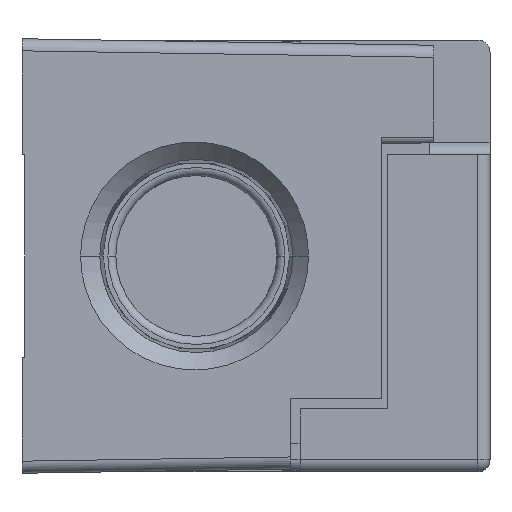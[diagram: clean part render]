
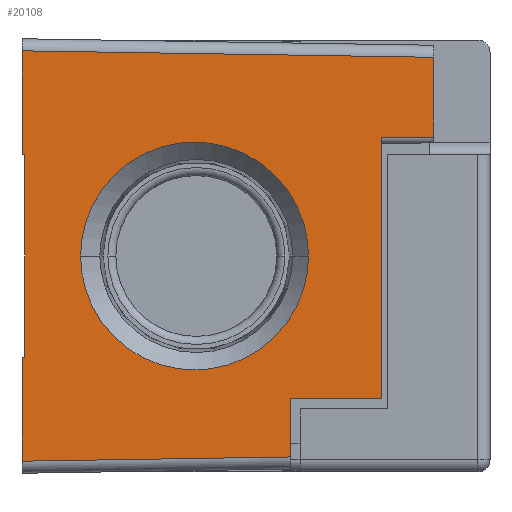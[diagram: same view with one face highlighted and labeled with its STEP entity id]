
A CAD part, front view. The second image highlights one B-rep face of the part: STEP entity #20108.
In plain terms, the highlighted planar face has unit normal (0.016, -1, 0).
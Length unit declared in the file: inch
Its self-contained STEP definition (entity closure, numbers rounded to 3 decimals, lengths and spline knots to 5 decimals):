
#15681=CARTESIAN_POINT('',(0.161,-3.18829,-0.7493));
#15691=DIRECTION('',(0.,0.,1.));
#15692=VECTOR('',#15691,0.2193);
#15693=CARTESIAN_POINT('',(0.161,-3.18829,-0.7493));
#15694=LINE('',#15693,#15692);
#16011=DIRECTION('',(0.,0.,1.));
#16012=VECTOR('',#16011,0.973);
#16013=CARTESIAN_POINT('',(0.501,-3.18295,-0.53));
#16014=LINE('',#16013,#16012);
#16019=DIRECTION('',(1.,0.016,0.));
#16020=VECTOR('',#16019,0.34004);
#16021=CARTESIAN_POINT('',(0.161,-3.18829,-0.53));
#16022=LINE('',#16021,#16020);
#16023=DIRECTION('',(-1.,-0.016,0.016));
#16024=VECTOR('',#16023,1.53538);
#16025=CARTESIAN_POINT('',(0.696,-3.17989,0.74089));
#16026=LINE('',#16025,#16024);
#16027=DIRECTION('',(1.,0.016,0.016));
#16028=VECTOR('',#16027,1.00025);
#16029=CARTESIAN_POINT('',(-0.839,-3.204,-0.76501));
#16030=LINE('',#16029,#16028);
#16031=DIRECTION('',(1.,0.016,0.));
#16032=VECTOR('',#16031,0.01);
#16033=CARTESIAN_POINT('',(-0.839,-3.204,-0.378));
#16034=LINE('',#16033,#16032);
#16035=DIRECTION('',(0.,0.,1.));
#16036=VECTOR('',#16035,0.756);
#16037=CARTESIAN_POINT('',(-0.829,-3.20384,-0.378));
#16038=LINE('',#16037,#16036);
#16039=DIRECTION('',(1.,0.016,0.));
#16040=VECTOR('',#16039,0.01);
#16041=CARTESIAN_POINT('',(-0.839,-3.204,0.378));
#16042=LINE('',#16041,#16040);
#16043=CARTESIAN_POINT('',(0.22922,-3.18722,0.));
#16044=CARTESIAN_POINT('',(0.22922,-3.18722,
-0.02503));
#16045=CARTESIAN_POINT('',(0.22477,-3.18729,
-0.07698));
#16046=CARTESIAN_POINT('',(0.20223,-3.18764,
-0.15686));
#16047=CARTESIAN_POINT('',(0.16265,-3.18826,
-0.23386));
#16048=CARTESIAN_POINT('',(0.10694,-3.18914,
-0.30258));
#16049=CARTESIAN_POINT('',(0.03821,-3.19022,
-0.35828));
#16050=CARTESIAN_POINT('',(-0.02595,-3.19123,
-0.39125));
#16051=CARTESIAN_POINT('',(-0.07874,-3.19206,
-0.40913));
#16052=CARTESIAN_POINT('',(-0.11844,-3.19268,
-0.41841));
#16053=CARTESIAN_POINT('',(-0.15111,-3.19319,
-0.42285));
#16054=CARTESIAN_POINT('',(-0.1768,-3.1936,
-0.42456));
#16055=CARTESIAN_POINT('',(-0.19567,-3.19389,
-0.42498));
#16056=CARTESIAN_POINT('',(-0.21455,-3.19419,
-0.42456));
#16057=CARTESIAN_POINT('',(-0.24024,-3.19459,
-0.42285));
#16058=CARTESIAN_POINT('',(-0.27291,-3.19511,
-0.41841));
#16059=CARTESIAN_POINT('',(-0.31261,-3.19573,
-0.40913));
#16060=CARTESIAN_POINT('',(-0.36539,-3.19656,
-0.39125));
#16061=CARTESIAN_POINT('',(-0.42956,-3.19757,
-0.35828));
#16062=CARTESIAN_POINT('',(-0.49829,-3.19865,
-0.30258));
#16063=CARTESIAN_POINT('',(-0.554,-3.19952,
-0.23386));
#16064=CARTESIAN_POINT('',(-0.59357,-3.20014,
-0.15686));
#16065=CARTESIAN_POINT('',(-0.61612,-3.2005,
-0.07698));
#16066=CARTESIAN_POINT('',(-0.62057,-3.20057,
-0.02503));
#16067=CARTESIAN_POINT('',(-0.62057,-3.20057,0.));
#16069=CARTESIAN_POINT('',(-0.62057,-3.20057,0.));
#16070=CARTESIAN_POINT('',(-0.62057,-3.20057,
0.02503));
#16071=CARTESIAN_POINT('',(-0.61612,-3.2005,
0.07698));
#16072=CARTESIAN_POINT('',(-0.59357,-3.20014,
0.15686));
#16073=CARTESIAN_POINT('',(-0.554,-3.19952,
0.23386));
#16074=CARTESIAN_POINT('',(-0.49829,-3.19865,
0.30258));
#16075=CARTESIAN_POINT('',(-0.42956,-3.19757,
0.35828));
#16076=CARTESIAN_POINT('',(-0.36539,-3.19656,
0.39125));
#16077=CARTESIAN_POINT('',(-0.31261,-3.19573,
0.40913));
#16078=CARTESIAN_POINT('',(-0.27291,-3.19511,
0.41841));
#16079=CARTESIAN_POINT('',(-0.24024,-3.19459,
0.42285));
#16080=CARTESIAN_POINT('',(-0.21455,-3.19419,
0.42456));
#16081=CARTESIAN_POINT('',(-0.19567,-3.19389,
0.42498));
#16082=CARTESIAN_POINT('',(-0.1768,-3.1936,
0.42456));
#16083=CARTESIAN_POINT('',(-0.15111,-3.19319,
0.42285));
#16084=CARTESIAN_POINT('',(-0.11844,-3.19268,
0.41841));
#16085=CARTESIAN_POINT('',(-0.07874,-3.19206,
0.40913));
#16086=CARTESIAN_POINT('',(-0.02595,-3.19123,
0.39125));
#16087=CARTESIAN_POINT('',(0.03821,-3.19022,
0.35828));
#16088=CARTESIAN_POINT('',(0.10694,-3.18914,
0.30258));
#16089=CARTESIAN_POINT('',(0.16265,-3.18826,
0.23386));
#16090=CARTESIAN_POINT('',(0.20223,-3.18764,
0.15686));
#16091=CARTESIAN_POINT('',(0.22477,-3.18729,
0.07698));
#16092=CARTESIAN_POINT('',(0.22922,-3.18722,
0.02503));
#16093=CARTESIAN_POINT('',(0.22922,-3.18722,0.));
#16095=CARTESIAN_POINT('',(-0.839,-3.204,0.76501));
#16105=DIRECTION('',(0.,0.,1.));
#16106=VECTOR('',#16105,0.38701);
#16107=CARTESIAN_POINT('',(-0.839,-3.204,0.378));
#16108=LINE('',#16107,#16106);
#16621=CARTESIAN_POINT('',(0.696,-3.17989,0.74089));
#16650=DIRECTION('',(0.,0.,-1.));
#16651=VECTOR('',#16650,0.29789);
#16652=CARTESIAN_POINT('',(0.696,-3.17989,0.74089));
#16653=LINE('',#16652,#16651);
#16713=DIRECTION('',(1.,0.016,0.));
#16714=VECTOR('',#16713,0.19502);
#16715=CARTESIAN_POINT('',(0.501,-3.18295,0.443));
#16716=LINE('',#16715,#16714);
#16849=CARTESIAN_POINT('',(-0.839,-3.204,-0.76501));
#16868=DIRECTION('',(0.,0.,1.));
#16869=VECTOR('',#16868,0.38701);
#16870=CARTESIAN_POINT('',(-0.839,-3.204,-0.76501));
#16871=LINE('',#16870,#16869);
#18049=CARTESIAN_POINT('',(0.22922,-3.18722,0.));
#18050=VERTEX_POINT('',#18049);
#18051=CARTESIAN_POINT('',(-0.62057,-3.20057,0.));
#18052=VERTEX_POINT('',#18051);
#18054=CARTESIAN_POINT('',(0.501,-3.18295,0.443));
#18056=VERTEX_POINT('',#18054);
#18063=CARTESIAN_POINT('',(0.696,-3.17989,0.443));
#18064=VERTEX_POINT('',#18063);
#18065=CARTESIAN_POINT('',(0.501,-3.18295,-0.53));
#18066=VERTEX_POINT('',#18065);
#18073=CARTESIAN_POINT('',(0.161,-3.18829,-0.53));
#18074=VERTEX_POINT('',#18073);
#18077=VERTEX_POINT('',#16095);
#18081=VERTEX_POINT('',#16621);
#18082=VERTEX_POINT('',#15681);
#18086=VERTEX_POINT('',#16849);
#18139=CARTESIAN_POINT('',(-0.839,-3.204,-0.378));
#18140=VERTEX_POINT('',#18139);
#18141=CARTESIAN_POINT('',(-0.839,-3.204,0.378));
#18143=VERTEX_POINT('',#18141);
#18161=CARTESIAN_POINT('',(-0.829,-3.20384,-0.378));
#18162=CARTESIAN_POINT('',(-0.829,-3.20384,0.378));
#18163=VERTEX_POINT('',#18161);
#18164=VERTEX_POINT('',#18162);
#20074=CARTESIAN_POINT('',(-0.839,-3.204,-1.85443));
#20075=DIRECTION('',(0.016,-1.,0.));
#20076=DIRECTION('',(0.,0.,1.));
#20077=AXIS2_PLACEMENT_3D('',#20074,#20075,#20076);
#20078=PLANE('',#20077);
#20080=ORIENTED_EDGE('',*,*,#20079,.F.);
#20082=ORIENTED_EDGE('',*,*,#20081,.T.);
#20084=ORIENTED_EDGE('',*,*,#20083,.F.);
#20085=ORIENTED_EDGE('',*,*,#20053,.F.);
#20086=ORIENTED_EDGE('',*,*,#20068,.F.);
#20087=ORIENTED_EDGE('',*,*,#19589,.F.);
#20089=ORIENTED_EDGE('',*,*,#20088,.F.);
#20091=ORIENTED_EDGE('',*,*,#20090,.T.);
#20093=ORIENTED_EDGE('',*,*,#20092,.T.);
#20095=ORIENTED_EDGE('',*,*,#20094,.T.);
#20097=ORIENTED_EDGE('',*,*,#20096,.F.);
#20099=ORIENTED_EDGE('',*,*,#20098,.T.);
#20100=EDGE_LOOP('',(#20080,#20082,#20084,#20085,#20086,#20087,#20089,#20091,
#20093,#20095,#20097,#20099));
#20101=FACE_OUTER_BOUND('',#20100,.F.);
#20103=ORIENTED_EDGE('',*,*,#20102,.F.);
#20105=ORIENTED_EDGE('',*,*,#20104,.F.);
#20106=EDGE_LOOP('',(#20103,#20105));
#20107=FACE_BOUND('',#20106,.F.);
#20108=ADVANCED_FACE('',(#20101,#20107),#20078,.T.);
#16068=B_SPLINE_CURVE_WITH_KNOTS('',3,(#16043,#16044,#16045,#16046,#16047,
#16048,#16049,#16050,#16051,#16052,#16053,#16054,#16055,#16056,#16057,#16058,
#16059,#16060,#16061,#16062,#16063,#16064,#16065,#16066,#16067),.UNSPECIFIED.,
.F.,.F.,(4,1,1,1,1,1,1,1,1,1,1,1,1,1,1,1,1,1,1,1,1,1,4),(0.,0.0625,0.125,
0.1875,0.25,0.3125,0.375,0.40625,0.4375,0.46875,0.48438,0.5,
0.51563,0.53125,0.5625,0.59375,0.625,0.6875,0.75,0.8125,
0.875,0.9375,1.),.UNSPECIFIED.);
#16094=B_SPLINE_CURVE_WITH_KNOTS('',3,(#16069,#16070,#16071,#16072,#16073,
#16074,#16075,#16076,#16077,#16078,#16079,#16080,#16081,#16082,#16083,#16084,
#16085,#16086,#16087,#16088,#16089,#16090,#16091,#16092,#16093),.UNSPECIFIED.,
.F.,.F.,(4,1,1,1,1,1,1,1,1,1,1,1,1,1,1,1,1,1,1,1,1,1,4),(0.,0.0625,0.125,
0.1875,0.25,0.3125,0.375,0.40625,0.4375,0.46875,0.48438,0.5,
0.51563,0.53125,0.5625,0.59375,0.625,0.6875,0.75,0.8125,
0.875,0.9375,1.),.UNSPECIFIED.);
#19589=EDGE_CURVE('',#18082,#18074,#15694,.T.);
#20053=EDGE_CURVE('',#18066,#18056,#16014,.T.);
#20068=EDGE_CURVE('',#18074,#18066,#16022,.T.);
#20079=EDGE_CURVE('',#18081,#18077,#16026,.T.);
#20081=EDGE_CURVE('',#18081,#18064,#16653,.T.);
#20083=EDGE_CURVE('',#18056,#18064,#16716,.T.);
#20088=EDGE_CURVE('',#18086,#18082,#16030,.T.);
#20090=EDGE_CURVE('',#18086,#18140,#16871,.T.);
#20092=EDGE_CURVE('',#18140,#18163,#16034,.T.);
#20094=EDGE_CURVE('',#18163,#18164,#16038,.T.);
#20096=EDGE_CURVE('',#18143,#18164,#16042,.T.);
#20098=EDGE_CURVE('',#18143,#18077,#16108,.T.);
#20102=EDGE_CURVE('',#18050,#18052,#16068,.T.);
#20104=EDGE_CURVE('',#18052,#18050,#16094,.T.);
